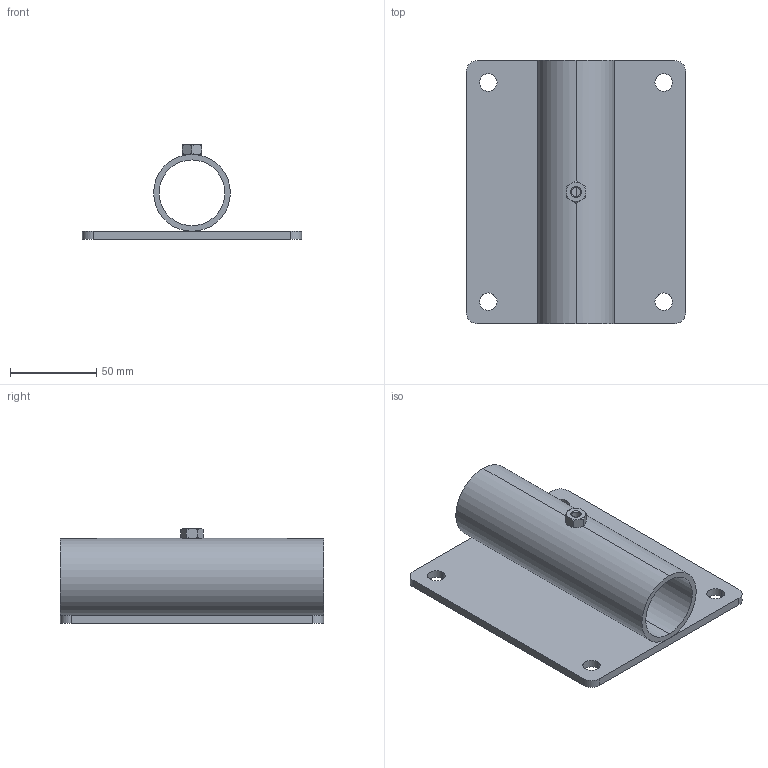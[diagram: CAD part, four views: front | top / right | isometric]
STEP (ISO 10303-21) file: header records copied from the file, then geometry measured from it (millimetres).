
FILE_DESCRIPTION (( 'STEP AP214' ), '1' );
FILE_NAME ('TPM-Support-Brace.STEP', '2020-12-18T15:40:57', ( '' ), ( '' ), 'SwSTEP 2.0', 'SolidWorks 2020', '' );
FILE_SCHEMA (( 'AUTOMOTIVE_DESIGN' ));
Length unit declared in the file: inch
Products named in the file (4): TPM Support Brace Tubing; TPM-Support-Brace; TPM-72 Plate; hex nut_ai_HNUT 0.2500-20-D-N
Assembly tree (3 placements, depth 2):
  TPM-Support-Brace
    TPM-72 Plate
    TPM Support Brace Tubing
    hex nut_ai_HNUT 0.2500-20-D-N
Bounding box: 127 x 152.4 x 54.95 mm (x, y, z)
Volume: 153553.2 mm3; surface area: 82006 mm2
Topology: 3 solids, 3 shells, 54 faces, 132 edges, 82 vertices
Faces by surface type: cylinder 22, plane 16, cone 16
Entity records: 2004 total; most frequent: CARTESIAN_POINT 554, DIRECTION 274, ORIENTED_EDGE 264, EDGE_CURVE 132, AXIS2_PLACEMENT_3D 114, VERTEX_POINT 82, EDGE_LOOP 66, FACE_OUTER_BOUND 54
